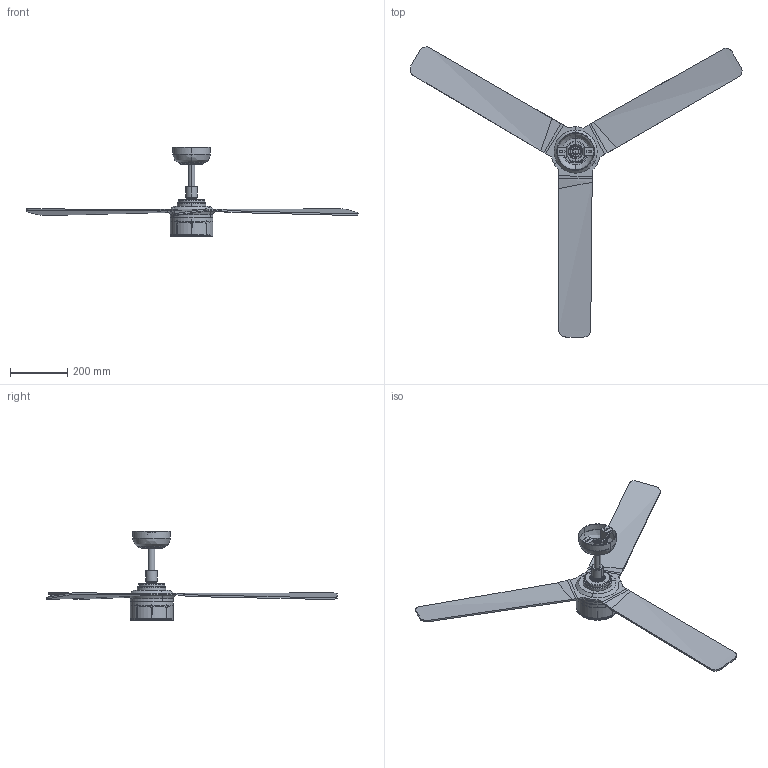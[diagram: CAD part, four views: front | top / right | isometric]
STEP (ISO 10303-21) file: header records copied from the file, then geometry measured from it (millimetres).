
FILE_DESCRIPTION(/* description */ (''),/* implementation_level */ '2;1');
FILE_NAME(/* name */ 'punt_tek_m_3d',/* time_stamp */ '2026-06-25T12:34:10+02:00',/* author */ (''),/* organization */ (''),/* preprocessor_version */ 'ST-DEVELOPER v19.2',/* originating_system */ 'Rhino 8.30',/* authorisation */ '');
FILE_SCHEMA (('CONFIG_CONTROL_DESIGN'));
Length unit declared in the file: millimetre
Products named in the file (1): Document
Bounding box: 1164.35 x 1017.63 x 314.31 mm (x, y, z)
Volume: 2316676.3 mm3; surface area: 806218.7 mm2
Topology: 9 solids, 9 shells, 934 faces, 2533 edges, 1605 vertices
Faces by surface type: plane 354, cylinder 291, bspline 289
Entity records: 53637 total; most frequent: CARTESIAN_POINT 26113, ORIENTED_EDGE 5062, EDGE_CURVE 2531, DIRECTION 2313, B_SPLINE_CURVE_WITH_KNOTS 1657, VERTEX_POINT 1605, AXIS2_PLACEMENT_3D 1479, EDGE_LOOP 998
